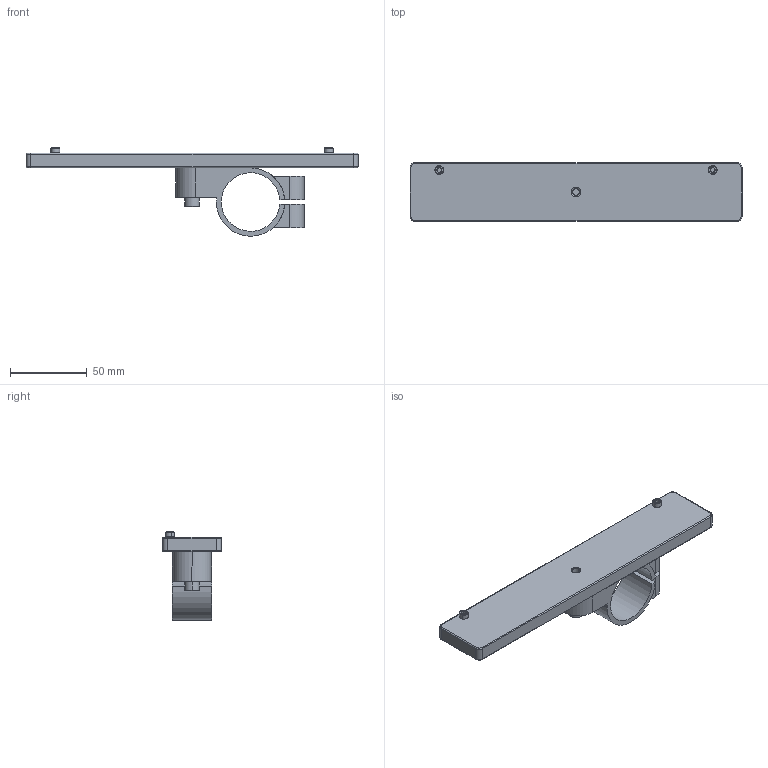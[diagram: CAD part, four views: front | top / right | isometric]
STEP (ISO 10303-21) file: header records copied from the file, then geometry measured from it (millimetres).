
FILE_DESCRIPTION (( 'STEP AP203' ), '1' );
FILE_NAME ('ASG-AC2500-CM-A.STEP', '2013-01-11T14:57:01', ( '' ), ( '' ), 'SwSTEP 2.0', 'SolidWorks 2012', '' );
FILE_SCHEMA (( 'CONFIG_CONTROL_DESIGN' ));
Length unit declared in the file: inch
Products named in the file (5): ASG-AC2500-CM-A; MTQ10188_91251A146; MTQ10187_90128A247; 451-065035; MTQ10186
Assembly tree (5 placements, depth 2):
  ASG-AC2500-CM-A
    MTQ10186
    451-065035
    MTQ10187_90128A247
    MTQ10188_91251A146  x2
Bounding box: 215.9 x 38.1 x 57.47 mm (x, y, z)
Volume: 103817.1 mm3; surface area: 37872.3 mm2
Topology: 5 solids, 5 shells, 399 faces, 1052 edges, 676 vertices
Faces by surface type: cylinder 229, plane 105, cone 39, torus 20, bspline 6
Entity records: 13725 total; most frequent: CARTESIAN_POINT 5859, ORIENTED_EDGE 1704, DIRECTION 1390, EDGE_CURVE 852, VERTEX_POINT 548, AXIS2_PLACEMENT_3D 497, VECTOR 396, LINE 396
